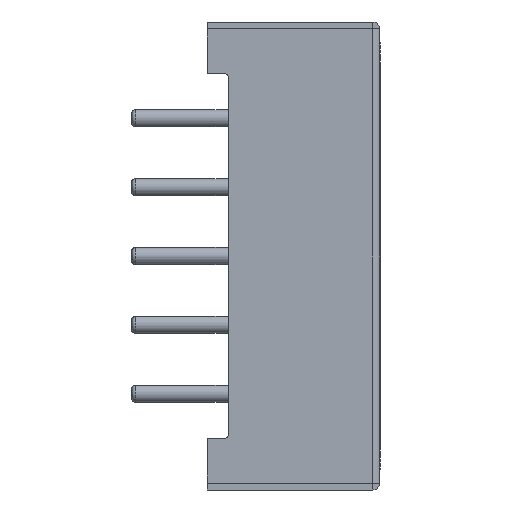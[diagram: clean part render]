
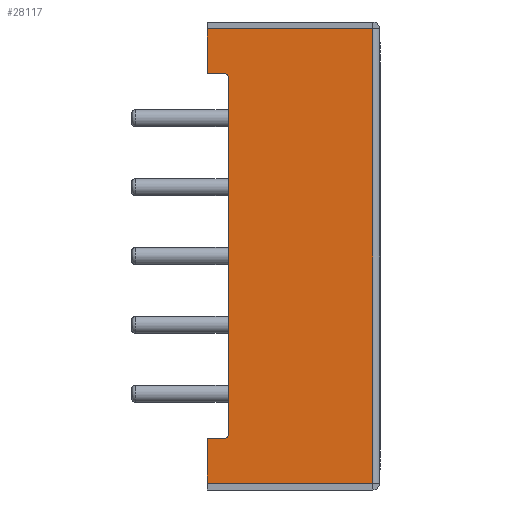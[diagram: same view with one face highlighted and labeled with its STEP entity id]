
A CAD part, left-side view. The second image highlights one B-rep face of the part: STEP entity #28117.
In plain terms, the highlighted planar face has unit normal (-1, 0, 0).
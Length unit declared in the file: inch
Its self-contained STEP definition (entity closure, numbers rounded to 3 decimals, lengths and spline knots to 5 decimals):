
#363 = DIRECTION ( 'NONE',  ( 0., 0., -1. ) ) ;
#380 = CARTESIAN_POINT ( 'NONE',  ( 0., 0.225, -0.6 ) ) ;
#1421 = CARTESIAN_POINT ( 'NONE',  ( 0., 0.25, -0.605 ) ) ;
#2936 = CARTESIAN_POINT ( 'NONE',  ( 0., 0.225, -0.075 ) ) ;
#3252 = EDGE_CURVE ( 'NONE', #36868, #10391, #25458, .T. ) ;
#3644 = CARTESIAN_POINT ( 'NONE',  ( 0., 0.22, -0.605 ) ) ;
#3737 = FACE_OUTER_BOUND ( 'NONE', #22178, .T. ) ;
#4681 = CARTESIAN_POINT ( 'NONE',  ( 0., 0.25, -0.01 ) ) ;
#5779 = LINE ( 'NONE', #25824, #13942 ) ;
#6286 = DIRECTION ( 'NONE',  ( 0., 0., -1. ) ) ;
#6906 = DIRECTION ( 'NONE',  ( 0., 0., 1. ) ) ;
#7064 = LINE ( 'NONE', #3644, #14005 ) ;
#7090 = VERTEX_POINT ( 'NONE', #1421 ) ;
#7394 = AXIS2_PLACEMENT_3D ( 'NONE', #21037, #30848, #363 ) ;
#8320 = LINE ( 'NONE', #4681, #15121 ) ;
#8516 = DIRECTION ( 'NONE',  ( 0., 0., 1. ) ) ;
#8854 = DIRECTION ( 'NONE',  ( 0., 0., 1. ) ) ;
#9125 = CARTESIAN_POINT ( 'NONE',  ( 0., 0.22, -0.605 ) ) ;
#9182 = EDGE_CURVE ( 'NONE', #30888, #21710, #25993, .T. ) ;
#9442 = ORIENTED_EDGE ( 'NONE', *, *, #9182, .F. ) ;
#10391 = VERTEX_POINT ( 'NONE', #39347 ) ;
#12571 = ORIENTED_EDGE ( 'NONE', *, *, #34457, .F. ) ;
#13689 = DIRECTION ( 'NONE',  ( 0., 0., -1. ) ) ;
#13942 = VECTOR ( 'NONE', #8516, 39.37008 ) ;
#14005 = VECTOR ( 'NONE', #17521, 39.37008 ) ;
#15121 = VECTOR ( 'NONE', #18545, 39.37008 ) ;
#16093 = EDGE_CURVE ( 'NONE', #19239, #36733, #30987, .T. ) ;
#16831 = EDGE_CURVE ( 'NONE', #36733, #27991, #43055, .T. ) ;
#16956 = CARTESIAN_POINT ( 'NONE',  ( 0., 0.22, -0.08 ) ) ;
#17521 = DIRECTION ( 'NONE',  ( 0., 1., 0. ) ) ;
#18320 = EDGE_CURVE ( 'NONE', #30888, #41287, #28475, .T. ) ;
#18534 = EDGE_CURVE ( 'NONE', #10391, #32789, #5779, .T. ) ;
#18545 = DIRECTION ( 'NONE',  ( 0., -1., 0. ) ) ;
#18909 = VECTOR ( 'NONE', #23260, 39.37008 ) ;
#19134 = EDGE_CURVE ( 'NONE', #41287, #7090, #7064, .T. ) ;
#19239 = VERTEX_POINT ( 'NONE', #43716 ) ;
#19701 = VECTOR ( 'NONE', #8854, 39.37008 ) ;
#21037 = CARTESIAN_POINT ( 'NONE',  ( 0., 0.25, 0. ) ) ;
#21710 = VERTEX_POINT ( 'NONE', #16956 ) ;
#22178 = EDGE_LOOP ( 'NONE', ( #42705, #22903, #36473, #9442, #28555, #35600, #12571, #37424, #34197, #44183 ) ) ;
#22903 = ORIENTED_EDGE ( 'NONE', *, *, #3252, .F. ) ;
#23260 = DIRECTION ( 'NONE',  ( 0., -1., 0. ) ) ;
#23422 = AXIS2_PLACEMENT_3D ( 'NONE', #380, #37516, #6286 ) ;
#23928 = CARTESIAN_POINT ( 'NONE',  ( 0., 0.225, -0.605 ) ) ;
#24146 = EDGE_CURVE ( 'NONE', #32789, #27991, #8320, .T. ) ;
#24445 = CARTESIAN_POINT ( 'NONE',  ( 0., 0.01, -0.67 ) ) ;
#24480 = PLANE ( 'NONE',  #7394 ) ;
#24971 = CARTESIAN_POINT ( 'NONE',  ( 0., 0.01, -0.01 ) ) ;
#25458 = LINE ( 'NONE', #26124, #35904 ) ;
#25824 = CARTESIAN_POINT ( 'NONE',  ( 0., 0.25, 0. ) ) ;
#25993 = LINE ( 'NONE', #9125, #26290 ) ;
#26124 = CARTESIAN_POINT ( 'NONE',  ( 0., 0.22, -0.075 ) ) ;
#26290 = VECTOR ( 'NONE', #39902, 39.37008 ) ;
#27120 = DIRECTION ( 'NONE',  ( 1., 0., 0. ) ) ;
#27991 = VERTEX_POINT ( 'NONE', #24971 ) ;
#28117 = ADVANCED_FACE ( 'NONE', ( #3737 ), #24480, .F. ) ;
#28475 = CIRCLE ( 'NONE', #23422, 0.005 ) ;
#28555 = ORIENTED_EDGE ( 'NONE', *, *, #18320, .T. ) ;
#28885 = DIRECTION ( 'NONE',  ( 0., 1., 0. ) ) ;
#29162 = VECTOR ( 'NONE', #6906, 39.37008 ) ;
#29182 = EDGE_CURVE ( 'NONE', #36868, #21710, #36610, .T. ) ;
#30848 = DIRECTION ( 'NONE',  ( 1., 0., 0. ) ) ;
#30888 = VERTEX_POINT ( 'NONE', #36542 ) ;
#30987 = LINE ( 'NONE', #41030, #18909 ) ;
#32789 = VERTEX_POINT ( 'NONE', #40720 ) ;
#33691 = AXIS2_PLACEMENT_3D ( 'NONE', #44911, #27120, #13689 ) ;
#34197 = ORIENTED_EDGE ( 'NONE', *, *, #16831, .T. ) ;
#34457 = EDGE_CURVE ( 'NONE', #19239, #7090, #38119, .T. ) ;
#35600 = ORIENTED_EDGE ( 'NONE', *, *, #19134, .T. ) ;
#35904 = VECTOR ( 'NONE', #28885, 39.37008 ) ;
#36473 = ORIENTED_EDGE ( 'NONE', *, *, #29182, .T. ) ;
#36542 = CARTESIAN_POINT ( 'NONE',  ( 0., 0.22, -0.6 ) ) ;
#36610 = CIRCLE ( 'NONE', #33691, 0.005 ) ;
#36733 = VERTEX_POINT ( 'NONE', #24445 ) ;
#36868 = VERTEX_POINT ( 'NONE', #2936 ) ;
#37424 = ORIENTED_EDGE ( 'NONE', *, *, #16093, .T. ) ;
#37516 = DIRECTION ( 'NONE',  ( 1., 0., 0. ) ) ;
#38119 = LINE ( 'NONE', #44739, #29162 ) ;
#39347 = CARTESIAN_POINT ( 'NONE',  ( 0., 0.25, -0.075 ) ) ;
#39902 = DIRECTION ( 'NONE',  ( 0., 0., 1. ) ) ;
#40720 = CARTESIAN_POINT ( 'NONE',  ( 0., 0.25, -0.01 ) ) ;
#41030 = CARTESIAN_POINT ( 'NONE',  ( 0., 0.25, -0.67 ) ) ;
#41287 = VERTEX_POINT ( 'NONE', #23928 ) ;
#42705 = ORIENTED_EDGE ( 'NONE', *, *, #18534, .F. ) ;
#43055 = LINE ( 'NONE', #43283, #19701 ) ;
#43283 = CARTESIAN_POINT ( 'NONE',  ( 0., 0.01, 0. ) ) ;
#43716 = CARTESIAN_POINT ( 'NONE',  ( 0., 0.25, -0.67 ) ) ;
#44183 = ORIENTED_EDGE ( 'NONE', *, *, #24146, .F. ) ;
#44739 = CARTESIAN_POINT ( 'NONE',  ( 0., 0.25, 0. ) ) ;
#44911 = CARTESIAN_POINT ( 'NONE',  ( 0., 0.225, -0.08 ) ) ;
